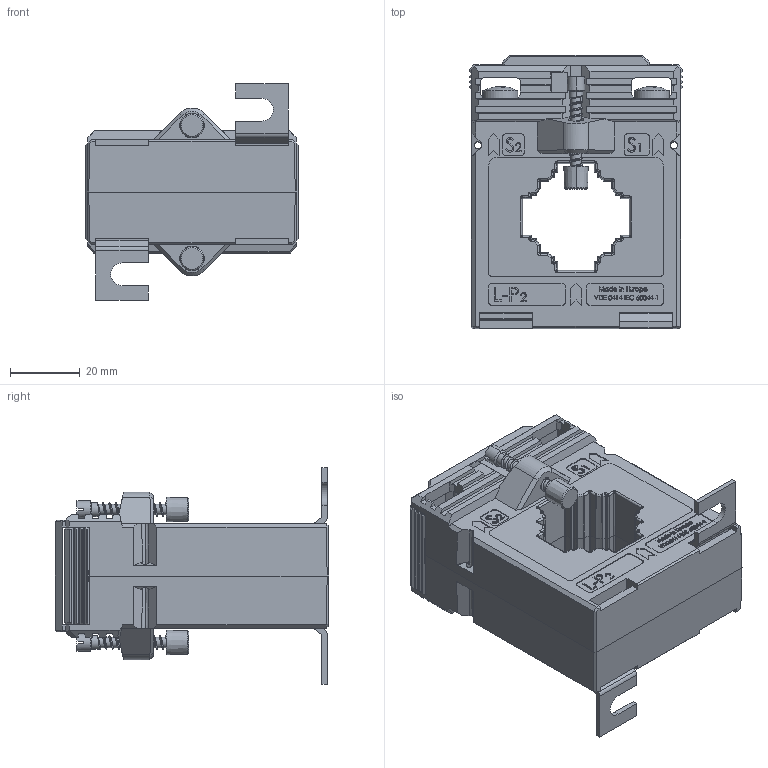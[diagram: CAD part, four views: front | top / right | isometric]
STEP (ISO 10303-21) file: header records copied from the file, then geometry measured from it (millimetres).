
FILE_DESCRIPTION (( 'STEP AP214' ), '1' );
FILE_NAME ('EASK31_3_kpl.STEP', '2011-11-23T10:08:47', ( ' ' ), ( '' ), 'SwSTEP 2.0', 'SolidWorks 2010', '' );
FILE_SCHEMA (( 'AUTOMOTIVE_DESIGN' ));
Length unit declared in the file: millimetre
Products named in the file (10): Fusswinkel_1,5; ASK31_3_11; Plastite_Schraube_30_mit-Gewinde; Verschlussklappe_28mm; Isolierschutzkappe; MBS_WN-003_04_Klemme_WN-003_02; Linsenschraube DIN 7985 4.8 VZ M 5 x 10; Plombierplatte_C; EASK31_3_kpl; ASK31_3_11_Gehäuseoberteil
Assembly tree (17 placements, depth 2):
  EASK31_3_kpl
    Linsenschraube DIN 7985 4.8 VZ M 5 x 10  x4
    Isolierschutzkappe  x2
    ASK31_3_11
    Verschlussklappe_28mm  x2
    Fusswinkel_1,5  x2
    Plastite_Schraube_30_mit-Gewinde  x2
    ASK31_3_11_Gehäuseoberteil
    Plombierplatte_C
    MBS_WN-003_04_Klemme_WN-003_02  x2
Bounding box: 61 x 78.26 x 62 mm (x, y, z)
Volume: 114382.9 mm3; surface area: 44608.5 mm2
Topology: 17 solids, 17 shells, 2263 faces, 5880 edges, 3729 vertices
Faces by surface type: plane 1357, bspline 476, cylinder 296, cone 94, torus 24, sphere 16
Entity records: 82506 total; most frequent: CARTESIAN_POINT 37153, ORIENTED_EDGE 10356, DIRECTION 7515, EDGE_CURVE 5178, VECTOR 3571, LINE 3571, VERTEX_POINT 3339, EDGE_LOOP 2137
